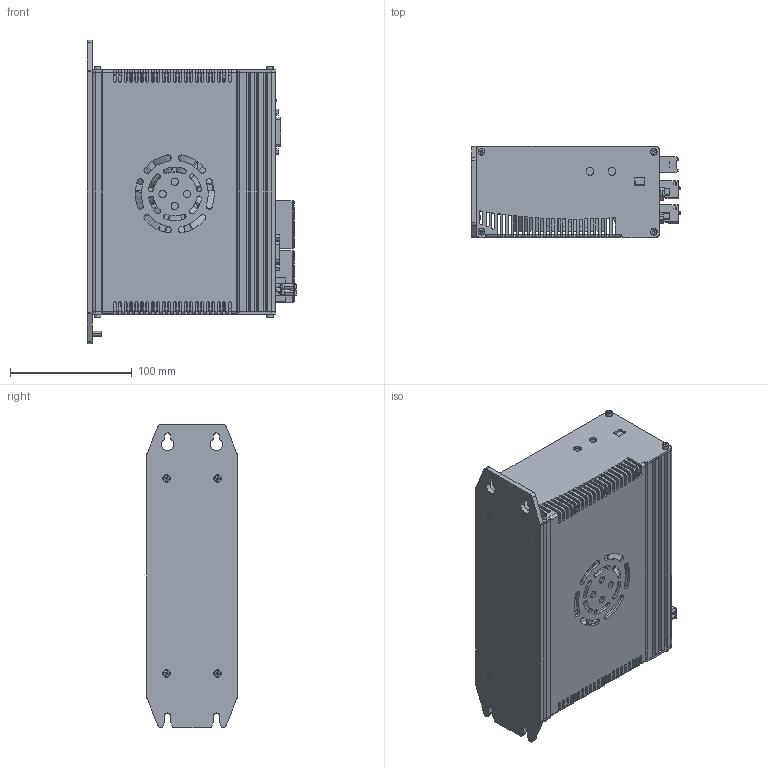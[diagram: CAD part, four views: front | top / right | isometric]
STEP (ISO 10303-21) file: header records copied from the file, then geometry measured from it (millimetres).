
FILE_DESCRIPTION((''),'2;1');
FILE_NAME('VPLC711_1_ASM_1_ASM_1_ASM','2024-08-30T10:54:00',('admin'),(''),'CREO PARAMETRIC BY PTC INC, 2021063','CREO PARAMETRIC BY PTC INC, 2021063','');
FILE_SCHEMA(('CONFIG_CONTROL_DESIGN','SHAPE_APPEARANCE_LAYERS_GROUPS'));
Products named in the file (13): VPLC711_1_1_1_1; VPLC711_1_2_1_1; VPLC711_1_3_1_1; VPLC711_1_4_1_1; VPLC711_1_5_1_1; VPLC711_1_6_1_1; VPLC711_1_7_1_1; VPLC711_1_8_1_1; VPLC711_1_9_1_1; VPLC711_1_10_1_1; PRT0001_1_1; PRT0001_1_2; VPLC711_1_ASM_1_ASM_1_ASM
Assembly tree (12 placements, depth 2):
  VPLC711_1_ASM_1_ASM_1_ASM
    VPLC711_1_1_1_1
    VPLC711_1_2_1_1
    VPLC711_1_3_1_1
    VPLC711_1_4_1_1
    VPLC711_1_5_1_1
    VPLC711_1_6_1_1
    VPLC711_1_7_1_1
    VPLC711_1_8_1_1
    VPLC711_1_9_1_1
    VPLC711_1_10_1_1
    PRT0001_1_1
    PRT0001_1_2
Bounding box: 172.15 x 74.6 x 249 mm (x, y, z)
Surface area: 453485 mm2
Topology: 12 solids, 93 shells, 2780 faces, 11578 edges, 8449 vertices
Faces by surface type: plane 1800, cylinder 819, cone 64, bspline 37, sphere 26, torus 24, extrusion 10
Entity records: 171461 total; most frequent: CARTESIAN_POINT 33159, ORIENTED_EDGE 17681, DIRECTION 17377, PRESENTATION_STYLE_ASSIGNMENT 13088, EDGE_CURVE 11506, STYLED_ITEM 11410, CURVE_STYLE 11312, VERTEX_POINT 8441
